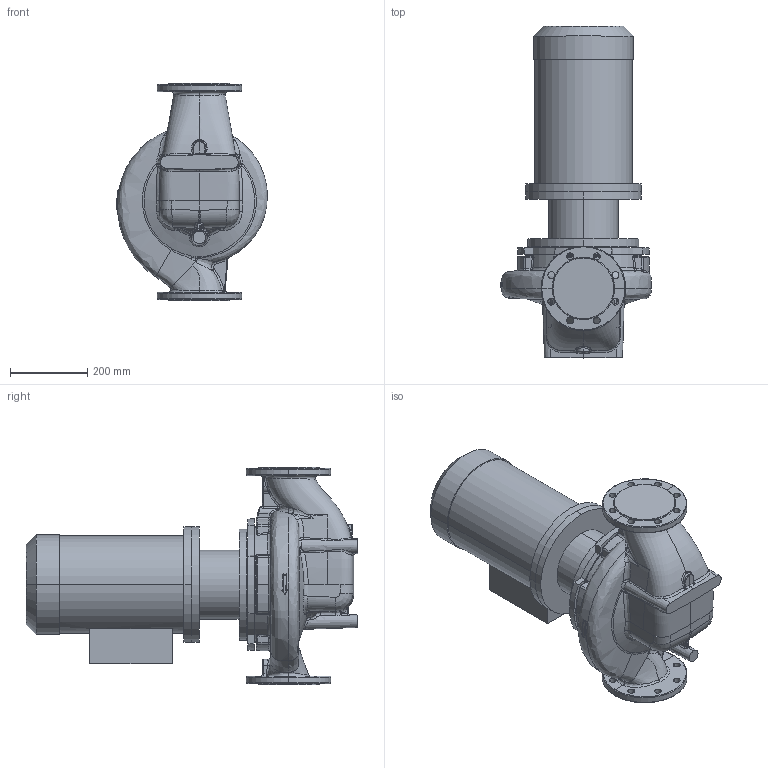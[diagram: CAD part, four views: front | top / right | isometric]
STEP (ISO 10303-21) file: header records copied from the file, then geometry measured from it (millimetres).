
FILE_DESCRIPTION (( 'STEP AP203' ), '1' );
FILE_NAME ('KRL 100-250-4-7,5.STEP', '2026-04-03T08:39:48', ( '' ), ( '' ), 'SwSTEP 2.0', 'SolidWorks 2016', '' );
FILE_SCHEMA (( 'CONFIG_CONTROL_DESIGN' ));
Length unit declared in the file: millimetre
Products named in the file (1): KRL 100-250-4-7,5
Bounding box: 391.59 x 861.8 x 565 mm (x, y, z)
Volume: 54958832.2 mm3; surface area: 1799916.7 mm2
Topology: 8 solids, 8 shells, 657 faces, 1563 edges, 928 vertices
Faces by surface type: bspline 313, cylinder 149, plane 110, cone 37, torus 26, sphere 22
Entity records: 60627 total; most frequent: CARTESIAN_POINT 48055, ORIENTED_EDGE 3094, DIRECTION 1907, EDGE_CURVE 1547, VERTEX_POINT 926, AXIS2_PLACEMENT_3D 818, B_SPLINE_CURVE_WITH_KNOTS 732, EDGE_LOOP 709
